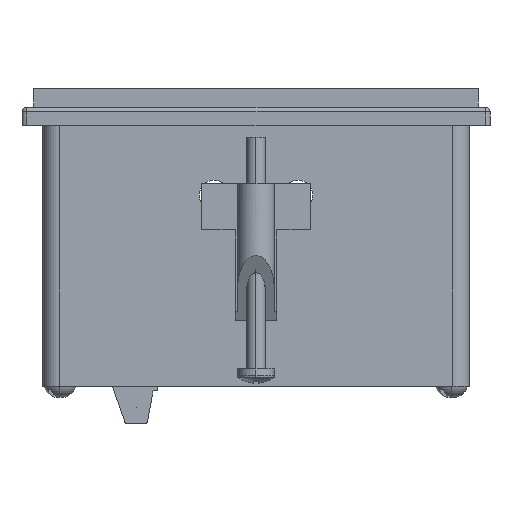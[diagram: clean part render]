
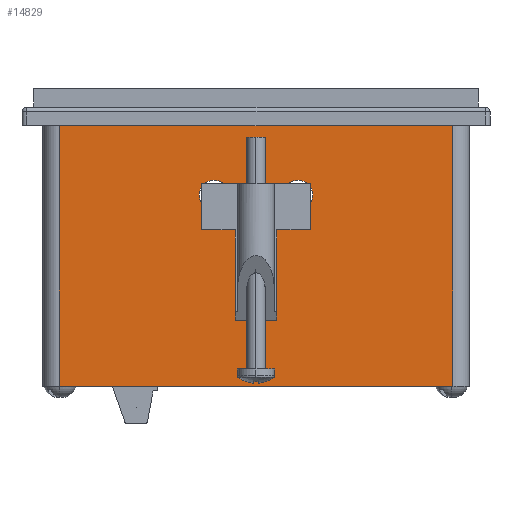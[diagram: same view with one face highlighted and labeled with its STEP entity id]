
A CAD part, left-side view. The second image highlights one B-rep face of the part: STEP entity #14829.
In plain terms, the highlighted planar face has unit normal (-1, 0, 0).
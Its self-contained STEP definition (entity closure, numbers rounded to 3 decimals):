
#116 = ORIENTED_EDGE ( 'NONE', *, *, #44196, .T. ) ;
#536 = EDGE_CURVE ( 'NONE', #852, #50960, #16933, .T. ) ;
#546 = LINE ( 'NONE', #50224, #49284 ) ;
#852 = VERTEX_POINT ( 'NONE', #24791 ) ;
#1007 = LINE ( 'NONE', #16649, #41727 ) ;
#1942 = EDGE_CURVE ( 'NONE', #8245, #22602, #19212, .T. ) ;
#2073 = CARTESIAN_POINT ( 'NONE',  ( -46., -42.5, -6. ) ) ;
#2226 = DIRECTION ( 'NONE',  ( 0., 1., 0. ) ) ;
#3773 = EDGE_CURVE ( 'NONE', #8245, #17690, #28584, .T. ) ;
#4601 = DIRECTION ( 'NONE',  ( 1., 0., 0. ) ) ;
#6277 = CARTESIAN_POINT ( 'NONE',  ( -46., -42.5, -64.25 ) ) ;
#7914 = CARTESIAN_POINT ( 'NONE',  ( -46., 42.5, -64.25 ) ) ;
#8245 = VERTEX_POINT ( 'NONE', #6277 ) ;
#9969 = AXIS2_PLACEMENT_3D ( 'NONE', #10285, #4601, #54290 ) ;
#10285 = CARTESIAN_POINT ( 'NONE',  ( -46., -9., -23. ) ) ;
#11013 = DIRECTION ( 'NONE',  ( 0., 0., -1. ) ) ;
#11623 = DIRECTION ( 'NONE',  ( 0., 0., 1. ) ) ;
#12636 = ORIENTED_EDGE ( 'NONE', *, *, #1942, .F. ) ;
#13141 = CIRCLE ( 'NONE', #9969, 3.25 ) ;
#14695 = EDGE_CURVE ( 'NONE', #17690, #50207, #546, .T. ) ;
#14829 = ADVANCED_FACE ( 'NONE', ( #21035, #35291, #36703 ), #49533, .F. ) ;
#16649 = CARTESIAN_POINT ( 'NONE',  ( -46., 42.5, -62. ) ) ;
#16933 = CIRCLE ( 'NONE', #34591, 3.25 ) ;
#17027 = CARTESIAN_POINT ( 'NONE',  ( -46., 42.5, -64.25 ) ) ;
#17242 = CARTESIAN_POINT ( 'NONE',  ( -46., -42.5, -62. ) ) ;
#17574 = DIRECTION ( 'NONE',  ( 0., 1., 0. ) ) ;
#17690 = VERTEX_POINT ( 'NONE', #2073 ) ;
#18120 = CIRCLE ( 'NONE', #28716, 3.25 ) ;
#19093 = DIRECTION ( 'NONE',  ( 0., 1., 0. ) ) ;
#19212 = LINE ( 'NONE', #7914, #27461 ) ;
#20111 = CARTESIAN_POINT ( 'NONE',  ( -46., 5.75, -23. ) ) ;
#21035 = FACE_BOUND ( 'NONE', #31326, .T. ) ;
#21808 = ORIENTED_EDGE ( 'NONE', *, *, #14695, .T. ) ;
#22602 = VERTEX_POINT ( 'NONE', #17027 ) ;
#23268 = DIRECTION ( 'NONE',  ( 1., 0., 0. ) ) ;
#24182 = EDGE_LOOP ( 'NONE', ( #28271, #30691 ) ) ;
#24610 = ORIENTED_EDGE ( 'NONE', *, *, #41921, .T. ) ;
#24783 = DIRECTION ( 'NONE',  ( 1., 0., 0. ) ) ;
#24791 = CARTESIAN_POINT ( 'NONE',  ( -46., 12.25, -23. ) ) ;
#27461 = VECTOR ( 'NONE', #2226, 1000. ) ;
#28271 = ORIENTED_EDGE ( 'NONE', *, *, #536, .T. ) ;
#28531 = ORIENTED_EDGE ( 'NONE', *, *, #3773, .T. ) ;
#28584 = LINE ( 'NONE', #17242, #35839 ) ;
#28716 = AXIS2_PLACEMENT_3D ( 'NONE', #51667, #23268, #17574 ) ;
#30403 = CARTESIAN_POINT ( 'NONE',  ( -46., 9., -23. ) ) ;
#30691 = ORIENTED_EDGE ( 'NONE', *, *, #44656, .T. ) ;
#31326 = EDGE_LOOP ( 'NONE', ( #24610, #116 ) ) ;
#32438 = DIRECTION ( 'NONE',  ( 0., 1., 0. ) ) ;
#34169 = EDGE_CURVE ( 'NONE', #50207, #22602, #1007, .T. ) ;
#34591 = AXIS2_PLACEMENT_3D ( 'NONE', #30403, #24783, #19093 ) ;
#35291 = FACE_BOUND ( 'NONE', #24182, .T. ) ;
#35493 = VERTEX_POINT ( 'NONE', #37415 ) ;
#35774 = AXIS2_PLACEMENT_3D ( 'NONE', #54975, #49290, #43597 ) ;
#35839 = VECTOR ( 'NONE', #11623, 1000. ) ;
#36703 = FACE_OUTER_BOUND ( 'NONE', #45807, .T. ) ;
#37415 = CARTESIAN_POINT ( 'NONE',  ( -46., -12.25, -23. ) ) ;
#38097 = DIRECTION ( 'NONE',  ( 1., 0., 0. ) ) ;
#39589 = AXIS2_PLACEMENT_3D ( 'NONE', #43829, #38097, #32438 ) ;
#41727 = VECTOR ( 'NONE', #11013, 1000. ) ;
#41921 = EDGE_CURVE ( 'NONE', #54056, #35493, #13141, .T. ) ;
#43597 = DIRECTION ( 'NONE',  ( 0., 1., 0. ) ) ;
#43829 = CARTESIAN_POINT ( 'NONE',  ( -46., 46., -62. ) ) ;
#43975 = CARTESIAN_POINT ( 'NONE',  ( -46., 42.5, -6. ) ) ;
#44196 = EDGE_CURVE ( 'NONE', #35493, #54056, #47802, .T. ) ;
#44528 = DIRECTION ( 'NONE',  ( 0., 1., 0. ) ) ;
#44656 = EDGE_CURVE ( 'NONE', #50960, #852, #18120, .T. ) ;
#45807 = EDGE_LOOP ( 'NONE', ( #52940, #12636, #28531, #21808 ) ) ;
#46711 = CARTESIAN_POINT ( 'NONE',  ( -46., -5.75, -23. ) ) ;
#47802 = CIRCLE ( 'NONE', #35774, 3.25 ) ;
#49284 = VECTOR ( 'NONE', #44528, 1000. ) ;
#49290 = DIRECTION ( 'NONE',  ( 1., 0., 0. ) ) ;
#49533 = PLANE ( 'NONE',  #39589 ) ;
#50207 = VERTEX_POINT ( 'NONE', #43975 ) ;
#50224 = CARTESIAN_POINT ( 'NONE',  ( -46., 46., -6. ) ) ;
#50960 = VERTEX_POINT ( 'NONE', #20111 ) ;
#51667 = CARTESIAN_POINT ( 'NONE',  ( -46., 9., -23. ) ) ;
#52940 = ORIENTED_EDGE ( 'NONE', *, *, #34169, .T. ) ;
#54056 = VERTEX_POINT ( 'NONE', #46711 ) ;
#54290 = DIRECTION ( 'NONE',  ( 0., 1., 0. ) ) ;
#54975 = CARTESIAN_POINT ( 'NONE',  ( -46., -9., -23. ) ) ;
